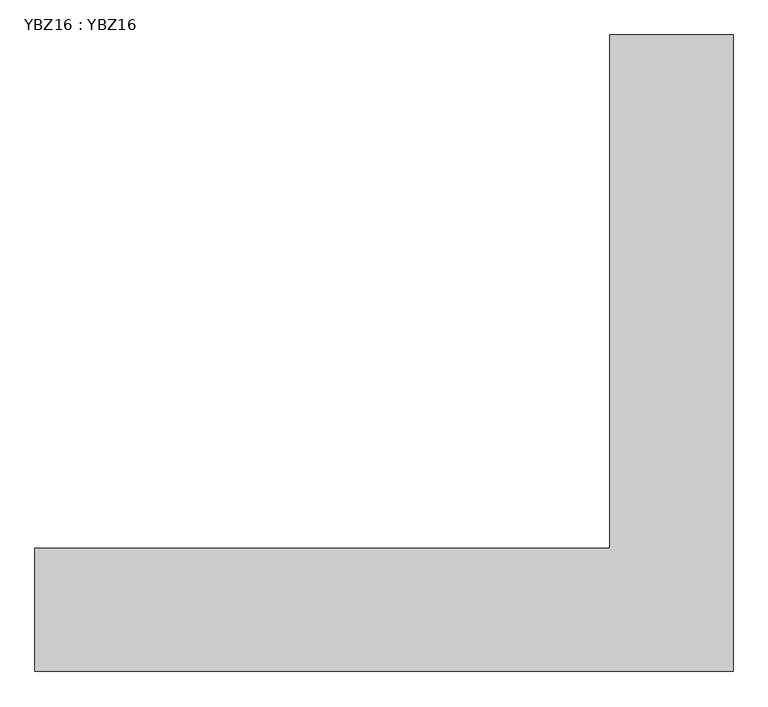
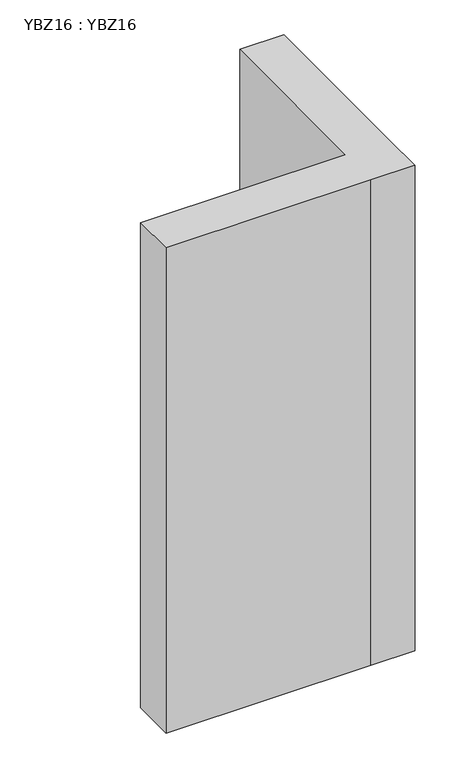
"""IFC4 building model written with IfcOpenShell, lengths in millimetres: column geometry, YBZ16 : YBZ16."""

from ifc_helpers import new_model, si_unit, frame, origin, place, context, project, spatial, polyline, outline, extrude, source, transform, mapped, element, save


def ybz16_ybz16_38908f3c(model_context):
    return source(origin(), model_context, "Body", "SweptSolid", [
        extrude(outline(polyline([(0.0, 1550.0), (0.0, 300.0), (0.0, 0.0), (-300.0, 0.0), (-1700.0, 0.0), (-1700.0, 300.0), (-300.0, 300.0), (-300.0, 1550.0), (0.0, 1550.0)])), frame((0.0, 0.0, 3200.0), z_axis=(0.0, 0.0, 1.0), x_axis=(1.0, 0.0, 0.0)), (0.0, 0.0, 1.0), 3500.0),
    ])


if __name__ == "__main__":
    model = new_model("IFC4")
    model_context = context("Model", 3, world=origin())
    ifc_project = project(units=[si_unit("LENGTHUNIT", "METRE", prefix="MILLI")], contexts=[model_context])
    site = spatial("IfcSite", under=ifc_project)
    building = spatial("IfcBuilding", under=site)
    placement = place(None, origin())
    ybz16_ybz16_shape = ybz16_ybz16_38908f3c(model_context)
    element("IfcColumn", 1, ObjectType="YBZ16 : YBZ16", at=placement, inside=building, context=model_context, shape_type="MappedRepresentation", body=[
        mapped(ybz16_ybz16_shape, transform((0.0, 0.0, 0.0), x_axis=(1.0, 0.0, 0.0), y_axis=(0.0, 1.0, 0.0), z_axis=(0.0, 0.0, 1.0))),
    ])
    save(model, "model.ifc")
